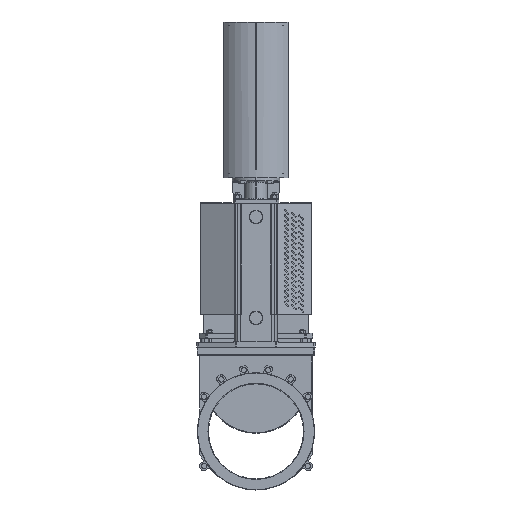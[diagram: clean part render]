
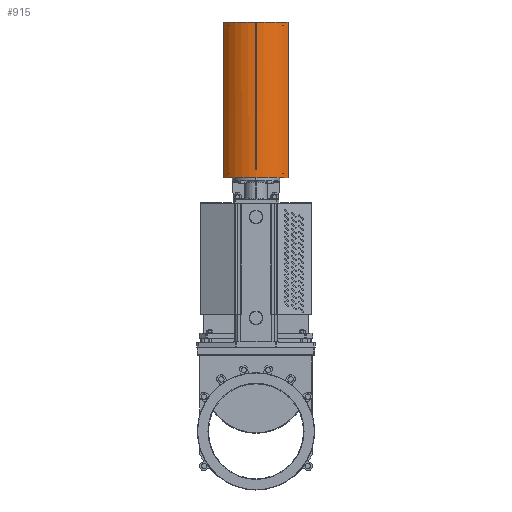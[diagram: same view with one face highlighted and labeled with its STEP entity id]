
A CAD part, left-side view. The second image highlights one B-rep face of the part: STEP entity #915.
In plain terms, the highlighted cylindrical face has radius 153.5 mm (diameter 307 mm), a partial arc.
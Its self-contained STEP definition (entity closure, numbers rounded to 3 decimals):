
#915=ADVANCED_FACE('',(#3912),#3913,.T.);
#3912=FACE_OUTER_BOUND('',#8827,.T.);
#3913=CYLINDRICAL_SURFACE('',#8828,153.5);
#8827=EDGE_LOOP('',(#18679,#18680,#18681,#18682,#18683,#18684,#18685,#18686,#18687,#18688,#18689,#18690));
#8828=AXIS2_PLACEMENT_3D('',#18691,#18692,#18693);
#18679=ORIENTED_EDGE('',*,*,#33605,.T.);
#18680=ORIENTED_EDGE('',*,*,#33604,.T.);
#18681=ORIENTED_EDGE('',*,*,#33601,.F.);
#18682=ORIENTED_EDGE('',*,*,#33599,.T.);
#18683=ORIENTED_EDGE('',*,*,#33596,.T.);
#18684=ORIENTED_EDGE('',*,*,#33603,.T.);
#18685=ORIENTED_EDGE('',*,*,#33593,.T.);
#18686=ORIENTED_EDGE('',*,*,#33592,.T.);
#18687=ORIENTED_EDGE('',*,*,#33900,.F.);
#18688=ORIENTED_EDGE('',*,*,#33901,.T.);
#18689=ORIENTED_EDGE('',*,*,#33870,.T.);
#18690=ORIENTED_EDGE('',*,*,#33576,.T.);
#18691=CARTESIAN_POINT('',(39.2,0.,1458.1));
#18692=DIRECTION('',(0.,0.,-1.));
#18693=DIRECTION('',(-0.645,0.764,0.));
#33576=EDGE_CURVE('',#42190,#42188,#42191,.T.);
#33592=EDGE_CURVE('',#42186,#42220,#42222,.T.);
#33593=EDGE_CURVE('',#42223,#42186,#42224,.T.);
#33596=EDGE_CURVE('',#42228,#42226,#42229,.T.);
#33599=EDGE_CURVE('',#42231,#42228,#42233,.T.);
#33601=EDGE_CURVE('',#42231,#42234,#42236,.T.);
#33603=EDGE_CURVE('',#42226,#42223,#42239,.T.);
#33604=EDGE_CURVE('',#42237,#42234,#42240,.T.);
#33605=EDGE_CURVE('',#42188,#42237,#42241,.T.);
#33870=EDGE_CURVE('',#42656,#42190,#42657,.T.);
#33900=EDGE_CURVE('',#42700,#42220,#42702,.T.);
#33901=EDGE_CURVE('',#42700,#42656,#42703,.T.);
#42186=VERTEX_POINT('',#54953);
#42188=VERTEX_POINT('',#54956);
#42190=VERTEX_POINT('',#54959);
#42191=CIRCLE('',#54960,153.5);
#42220=VERTEX_POINT('',#54994);
#42222=CIRCLE('',#54996,153.5);
#42223=VERTEX_POINT('',#54997);
#42224=LINE('',#54998,#54999);
#42226=VERTEX_POINT('',#55002);
#42228=VERTEX_POINT('',#55005);
#42229=LINE('',#55006,#55007);
#42231=VERTEX_POINT('',#55010);
#42233=CIRCLE('',#55013,153.5);
#42234=VERTEX_POINT('',#55014);
#42236=LINE('',#55017,#55018);
#42237=VERTEX_POINT('',#55019);
#42239=CIRCLE('',#55022,153.5);
#42240=CIRCLE('',#55023,153.5);
#42241=LINE('',#55024,#55025);
#42656=VERTEX_POINT('',#56073);
#42657=LINE('',#56074,#56075);
#42700=VERTEX_POINT('',#56137);
#42702=LINE('',#56139,#56140);
#42703=CIRCLE('',#56141,153.5);
#54953=CARTESIAN_POINT('',(-114.26,3.5,1508.1));
#54956=CARTESIAN_POINT('',(-114.26,-3.5,1508.1));
#54959=CARTESIAN_POINT('',(-59.819,-117.292,1508.1));
#54960=AXIS2_PLACEMENT_3D('',#71188,#71189,#71190);
#54994=CARTESIAN_POINT('',(-59.819,117.292,1508.1));
#54996=AXIS2_PLACEMENT_3D('',#71226,#71227,#71228);
#54997=CARTESIAN_POINT('',(-114.26,3.5,1488.1));
#54998=CARTESIAN_POINT('',(-114.26,3.5,1488.1));
#54999=VECTOR('',#71229,1000.);
#55002=CARTESIAN_POINT('',(-114.276,2.725,1488.1));
#55005=CARTESIAN_POINT('',(-114.276,2.725,963.1));
#55006=CARTESIAN_POINT('',(-114.276,2.725,963.1));
#55007=VECTOR('',#71232,10.);
#55010=CARTESIAN_POINT('',(-114.276,-2.725,963.1));
#55013=AXIS2_PLACEMENT_3D('',#71235,#71236,#71237);
#55014=CARTESIAN_POINT('',(-114.276,-2.725,1488.1));
#55017=CARTESIAN_POINT('',(-114.276,-2.725,963.1));
#55018=VECTOR('',#71239,10.);
#55019=CARTESIAN_POINT('',(-114.26,-3.5,1488.1));
#55022=AXIS2_PLACEMENT_3D('',#71241,#71242,#71243);
#55023=AXIS2_PLACEMENT_3D('',#71244,#71245,#71246);
#55024=CARTESIAN_POINT('',(-114.26,-3.5,1508.1));
#55025=VECTOR('',#71247,1000.);
#56073=CARTESIAN_POINT('',(-59.819,-117.292,935.1));
#56074=CARTESIAN_POINT('',(-59.819,-117.292,935.1));
#56075=VECTOR('',#71716,1000.);
#56137=CARTESIAN_POINT('',(-59.819,117.292,935.1));
#56139=CARTESIAN_POINT('',(-59.819,117.292,935.1));
#56140=VECTOR('',#71766,1000.);
#56141=AXIS2_PLACEMENT_3D('',#71767,#71768,#71769);
#71188=CARTESIAN_POINT('',(39.2,0.,1508.1));
#71189=DIRECTION('',(0.,0.,-1.));
#71190=DIRECTION('',(-0.645,0.764,0.));
#71226=CARTESIAN_POINT('',(39.2,0.,1508.1));
#71227=DIRECTION('',(0.,0.,-1.));
#71228=DIRECTION('',(-0.645,0.764,0.));
#71229=DIRECTION('',(0.,0.,1.));
#71232=DIRECTION('',(0.,0.,1.));
#71235=CARTESIAN_POINT('',(39.2,0.,963.1));
#71236=DIRECTION('',(0.,0.,-1.));
#71237=DIRECTION('',(-0.645,0.764,0.));
#71239=DIRECTION('',(0.,0.,1.));
#71241=CARTESIAN_POINT('',(39.2,0.,1488.1));
#71242=DIRECTION('',(0.,0.,-1.));
#71243=DIRECTION('',(1.,0.,0.));
#71244=CARTESIAN_POINT('',(39.2,0.,1488.1));
#71245=DIRECTION('',(0.,0.,-1.));
#71246=DIRECTION('',(1.,0.,0.));
#71247=DIRECTION('',(0.,0.,-1.));
#71716=DIRECTION('',(0.,0.,1.));
#71766=DIRECTION('',(0.,0.,1.));
#71767=CARTESIAN_POINT('',(39.2,0.,935.1));
#71768=DIRECTION('',(0.,0.,1.));
#71769=DIRECTION('',(-0.645,0.764,0.));
